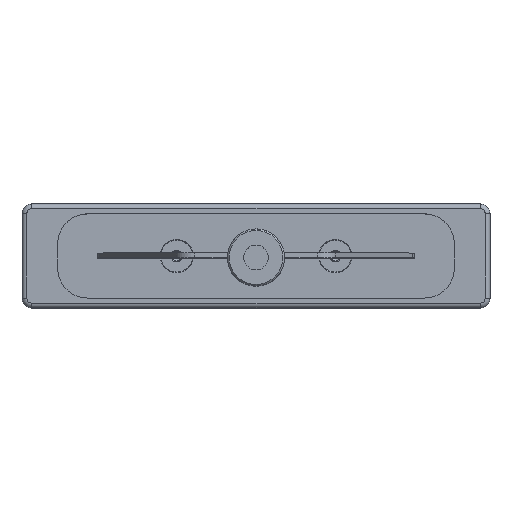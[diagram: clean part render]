
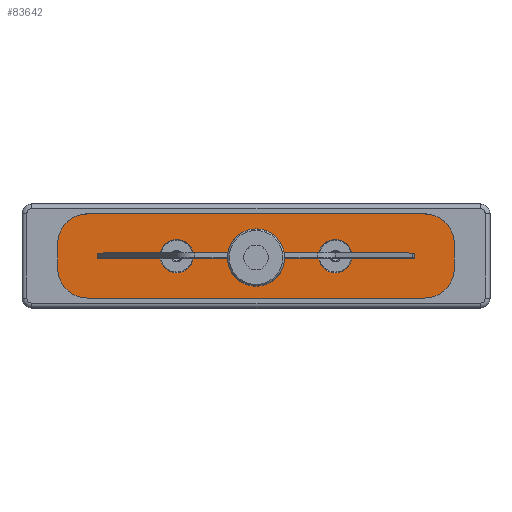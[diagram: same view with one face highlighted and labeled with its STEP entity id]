
A CAD part, top view. The second image highlights one B-rep face of the part: STEP entity #83642.
In plain terms, the highlighted planar face has unit normal (0, 0, 1).
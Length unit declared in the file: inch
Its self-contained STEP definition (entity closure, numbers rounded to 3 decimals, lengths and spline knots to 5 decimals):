
#75371=CARTESIAN_POINT('',(16.32676,3.85166,-40.04183));
#75372=VERTEX_POINT('',#75371);
#75373=CARTESIAN_POINT('',(16.32676,3.64166,-40.04183));
#75374=DIRECTION('',(0.0,0.0,-1.0));
#75375=DIRECTION('',(0.0,1.0,0.0));
#75376=AXIS2_PLACEMENT_3D('',#75373,#75374,#75375);
#75377=CIRCLE('',#75376,0.21);
#75378=EDGE_CURVE('',#75372,#75372,#75377,.T.);
#75391=CARTESIAN_POINT('',(18.32676,3.85166,-40.04183));
#75392=VERTEX_POINT('',#75391);
#75393=CARTESIAN_POINT('',(18.32676,3.64166,-40.04183));
#75394=DIRECTION('',(0.0,0.0,-1.0));
#75395=DIRECTION('',(0.0,1.0,0.0));
#75396=AXIS2_PLACEMENT_3D('',#75393,#75394,#75395);
#75397=CIRCLE('',#75396,0.21);
#75398=EDGE_CURVE('',#75392,#75392,#75397,.T.);
#83060=CARTESIAN_POINT('',(14.82676,3.79791,-40.04183));
#83061=VERTEX_POINT('',#83060);
#83068=CARTESIAN_POINT('',(15.20176,4.17291,-40.04183));
#83069=VERTEX_POINT('',#83068);
#83070=CARTESIAN_POINT('',(15.20176,3.79791,-40.04183));
#83071=DIRECTION('',(0.0,0.0,-1.0));
#83072=DIRECTION('',(0.0,-1.0,0.0));
#83073=AXIS2_PLACEMENT_3D('',#83070,#83071,#83072);
#83074=CIRCLE('',#83073,0.375);
#83075=EDGE_CURVE('',#83061,#83069,#83074,.T.);
#83092=CARTESIAN_POINT('',(14.82676,3.48541,-40.04183));
#83093=VERTEX_POINT('',#83092);
#83100=CARTESIAN_POINT('',(14.82676,3.48541,-40.04183));
#83101=DIRECTION('',(0.0,1.0,0.0));
#83102=VECTOR('',#83101,0.3125);
#83103=LINE('',#83100,#83102);
#83104=EDGE_CURVE('',#83093,#83061,#83103,.T.);
#83116=CARTESIAN_POINT('',(15.20176,3.11041,-40.04183));
#83117=VERTEX_POINT('',#83116);
#83124=CARTESIAN_POINT('',(15.20176,3.48541,-40.04183));
#83125=DIRECTION('',(0.0,0.0,-1.0));
#83126=DIRECTION('',(0.0,-1.0,0.0));
#83127=AXIS2_PLACEMENT_3D('',#83124,#83125,#83126);
#83128=CIRCLE('',#83127,0.375);
#83129=EDGE_CURVE('',#83117,#83093,#83128,.T.);
#83141=CARTESIAN_POINT('',(19.45176,3.11041,-40.04183));
#83142=VERTEX_POINT('',#83141);
#83149=CARTESIAN_POINT('',(15.20176,3.11041,-40.04183));
#83150=DIRECTION('',(1.0,0.0,0.0));
#83151=VECTOR('',#83150,4.25);
#83152=LINE('',#83149,#83151);
#83153=EDGE_CURVE('',#83117,#83142,#83152,.T.);
#83582=CARTESIAN_POINT('',(19.45176,4.17291,-40.04183));
#83583=VERTEX_POINT('',#83582);
#83584=CARTESIAN_POINT('',(15.20176,4.17291,-40.04183));
#83585=DIRECTION('',(1.0,0.0,0.0));
#83586=VECTOR('',#83585,4.25);
#83587=LINE('',#83584,#83586);
#83588=EDGE_CURVE('',#83069,#83583,#83587,.T.);
#83600=CARTESIAN_POINT('',(11.30676,3.11041,-40.04183));
#83601=DIRECTION('',(0.0,0.0,-1.0));
#83602=DIRECTION('',(0.0,-1.0,0.0));
#83603=AXIS2_PLACEMENT_3D('',#83600,#83601,#83602);
#83604=PLANE('',#83603);
#83605=CARTESIAN_POINT('',(19.82676,3.48541,-40.04183));
#83606=VERTEX_POINT('',#83605);
#83607=CARTESIAN_POINT('',(19.45176,3.48541,-40.04183));
#83608=DIRECTION('',(0.0,0.0,-1.0));
#83609=DIRECTION('',(0.0,1.0,0.0));
#83610=AXIS2_PLACEMENT_3D('',#83607,#83608,#83609);
#83611=CIRCLE('',#83610,0.375);
#83612=EDGE_CURVE('',#83606,#83142,#83611,.T.);
#83613=ORIENTED_EDGE('',*,*,#83612,.F.);
#83614=CARTESIAN_POINT('',(19.82676,3.79791,-40.04183));
#83615=VERTEX_POINT('',#83614);
#83616=CARTESIAN_POINT('',(19.82676,3.79791,-40.04183));
#83617=DIRECTION('',(0.0,-1.0,0.0));
#83618=VECTOR('',#83617,0.3125);
#83619=LINE('',#83616,#83618);
#83620=EDGE_CURVE('',#83615,#83606,#83619,.T.);
#83621=ORIENTED_EDGE('',*,*,#83620,.F.);
#83622=CARTESIAN_POINT('',(19.45176,3.79791,-40.04183));
#83623=DIRECTION('',(0.0,0.0,-1.0));
#83624=DIRECTION('',(0.0,1.0,0.0));
#83625=AXIS2_PLACEMENT_3D('',#83622,#83623,#83624);
#83626=CIRCLE('',#83625,0.375);
#83627=EDGE_CURVE('',#83583,#83615,#83626,.T.);
#83628=ORIENTED_EDGE('',*,*,#83627,.F.);
#83629=ORIENTED_EDGE('',*,*,#83588,.F.);
#83630=ORIENTED_EDGE('',*,*,#83075,.F.);
#83631=ORIENTED_EDGE('',*,*,#83104,.F.);
#83632=ORIENTED_EDGE('',*,*,#83129,.F.);
#83633=ORIENTED_EDGE('',*,*,#83153,.T.);
#83634=EDGE_LOOP('',(#83613,#83621,#83628,#83629,#83630,#83631,#83632,#83633));
#83635=FACE_OUTER_BOUND('',#83634,.T.);
#83636=ORIENTED_EDGE('',*,*,#75378,.T.);
#83637=EDGE_LOOP('',(#83636));
#83638=FACE_BOUND('',#83637,.T.);
#83639=ORIENTED_EDGE('',*,*,#75398,.T.);
#83640=EDGE_LOOP('',(#83639));
#83641=FACE_BOUND('',#83640,.T.);
#83642=ADVANCED_FACE('',(#83635,#83638,#83641),#83604,.F.);
